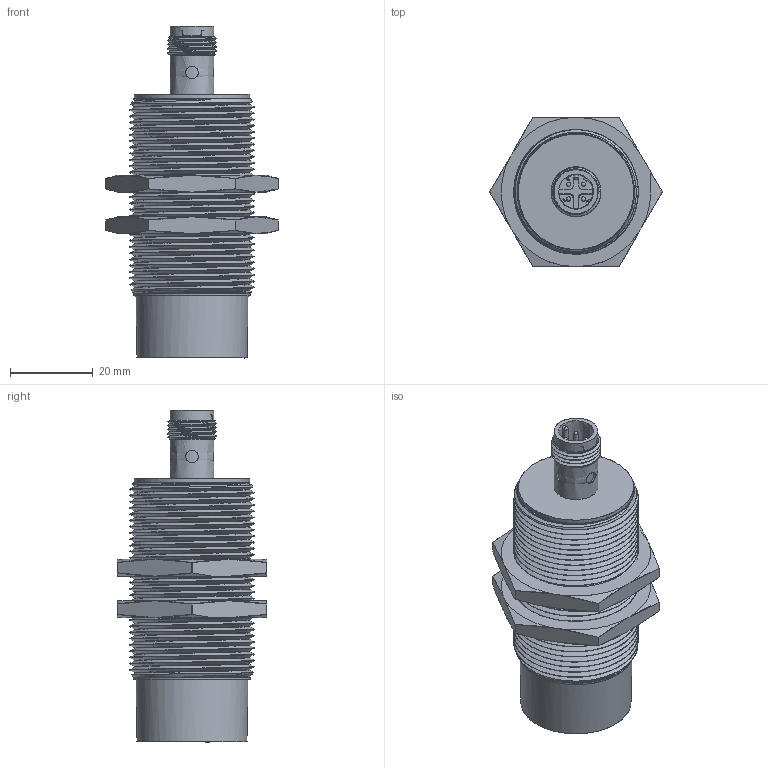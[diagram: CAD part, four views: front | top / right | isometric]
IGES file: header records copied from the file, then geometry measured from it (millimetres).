
Global section: file name: 3DCAD_IS_D30MM_2NC_30N_M12.igs; native system: NX V2306; preprocessor: SIEMENS PLM Software NX2306.9180; date: 20250430.103813; units: millimetre
Bounding box: 41.57 x 36 x 80 mm (x, y, z)
Surface area: 17554.3 mm2 (no closed solid volume)
Topology: 0 solids, 0 shells, 307 faces, 2253 edges, 2221 vertices
Faces by surface type: bspline 307
